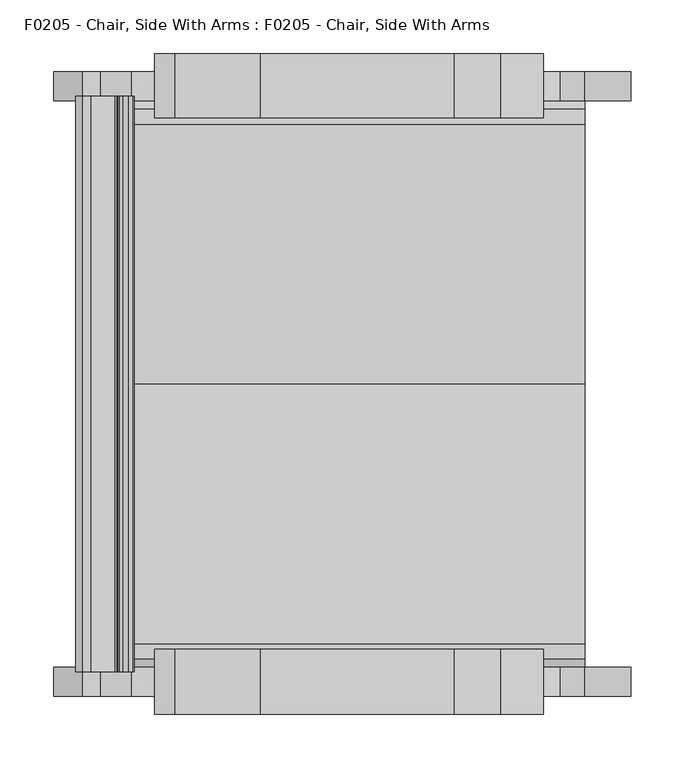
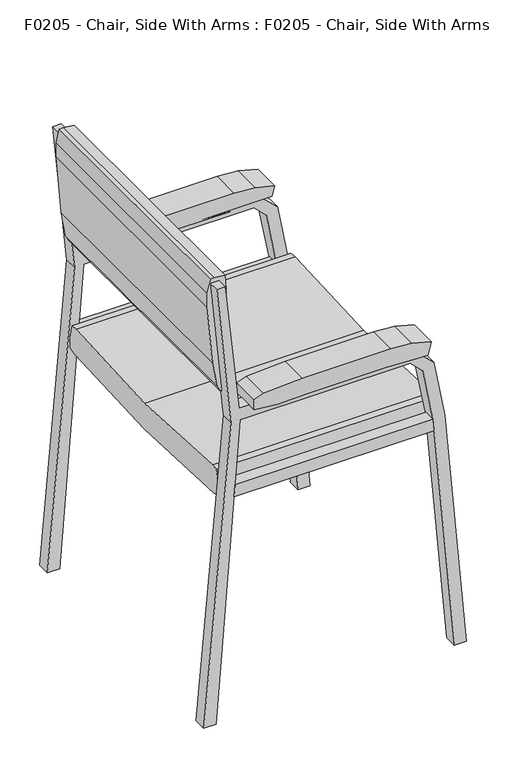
"""IFC4 building model written with IfcOpenShell, lengths in millimetres: proxy geometry, F0205 - Chair, Side With Arms : F0205 - Chair, Side With Arms."""

import ifcopenshell
import ifcopenshell.guid

model = None  # the IFC model being written
_history = None  # IfcOwnerHistory: only IFC2X3 demands one
_inside = {}  # id of a spatial element -> (the spatial element, [elements in it])
_under = {}  # id of a project, library or spatial element -> (it, [spatial elements below it])
_declared = {}  # id of a project -> (the project, [libraries it declares])
_typed = {}  # id of a type object -> (the type object, [elements of that type])
_made_of = {}  # id of a material, layer set ... -> (it, [elements and type objects made of it])


def new_model(schema):
    """Start an empty IFC model of exactly this schema.

    Asked for "IFC4X3", IfcOpenShell would pick the latest addendum, in which some entities
    have other attributes; the version numbers below select the first issue.
    IFC2X3 requires an IfcOwnerHistory on every rooted entity: one is made here for all.
    """
    global model, _history
    if schema == "IFC4X3":
        model = ifcopenshell.file(schema_version=(4, 3, 0, 0))
    else:
        model = ifcopenshell.file(schema=schema)
    _inside.clear()
    _under.clear()
    _declared.clear()
    _typed.clear()
    _made_of.clear()
    _history = None
    if model.schema == "IFC2X3":
        org = make("IfcOrganization", Name="unknown")
        user = make(
            "IfcPersonAndOrganization",
            ThePerson=make("IfcPerson", FamilyName="unknown"),
            TheOrganization=org,
        )
        app = make(
            "IfcApplication",
            ApplicationDeveloper=org,
            Version="unknown",
            ApplicationFullName="unknown",
            ApplicationIdentifier="unknown",
        )
        _history = make(
            "IfcOwnerHistory",
            OwningUser=user,
            OwningApplication=app,
            ChangeAction="ADDED",
            CreationDate=0,
        )
    return model


def make(cls, **values):
    """One entity of the class cls with the attributes given. An attribute that is None is left unset."""
    return model.create_entity(
        cls, **{name: value for name, value in values.items() if value is not None}
    )


def rooted(cls, **values):
    """An entity with a GlobalId (a new one), such as an element, a storey or a relation."""
    return make(cls, GlobalId=ifcopenshell.guid.new(), OwnerHistory=_history, **values)


def si_unit(unit_type, name, prefix=None):
    """IfcSIUnit, for example si_unit("LENGTHUNIT", "METRE", prefix="MILLI")."""
    return make("IfcSIUnit", UnitType=unit_type, Prefix=prefix, Name=name)


def assignment(units):
    """IfcUnitAssignment: the units of a project."""
    return None if units is None else make("IfcUnitAssignment", Units=units)


def point(xyz):
    """IfcCartesianPoint."""
    return None if xyz is None else make("IfcCartesianPoint", Coordinates=xyz)


def direction(xyz):
    """IfcDirection."""
    return None if xyz is None else make("IfcDirection", DirectionRatios=xyz)


def frame(location, z_axis=None, x_axis=None):
    """IfcAxis2Placement3D, a coordinate frame: its origin and axes. An axis left out is left unset."""
    return make(
        "IfcAxis2Placement3D",
        Location=point(location),
        Axis=direction(z_axis),
        RefDirection=direction(x_axis),
    )


def origin():
    """The frame at (0, 0, 0) with its axes left unset."""
    return frame((0.0, 0.0, 0.0))


def place(relative_to, where):
    """IfcLocalPlacement: puts the frame where relative to a parent placement (None: the world)."""
    return make(
        "IfcLocalPlacement", PlacementRelTo=relative_to, RelativePlacement=where
    )


def context(
    kind, dimensions, precision=None, world=None, true_north=None, identifier=None
):
    """IfcGeometricRepresentationContext, for example the 3D "Model" context."""
    return make(
        "IfcGeometricRepresentationContext",
        ContextIdentifier=identifier,
        ContextType=kind,
        CoordinateSpaceDimension=dimensions,
        Precision=precision,
        WorldCoordinateSystem=world,
        TrueNorth=true_north,
    )


def project(units=None, contexts=None):
    """IfcProject with its units and contexts."""
    return rooted(
        "IfcProject",
        Name="project",
        RepresentationContexts=contexts,
        UnitsInContext=assignment(units),
    )


def spatial(cls, under=None, at=None, **own):
    """A site, building, storey or space (cls), placed at a placement, below another one or the project."""
    s = rooted(cls, ObjectPlacement=at, **own)
    if under is not None:
        _under.setdefault(under.id(), (under, []))[1].append(s)
    return s


def polyline(points):
    """IfcPolyline through the points."""
    return make("IfcPolyline", Points=[point(p) for p in points])


def outline(outer, holes=None, kind="AREA"):
    """IfcArbitraryClosedProfileDef: a profile drawn as a closed curve; with holes, ...WithVoids."""
    if holes is None:
        return make("IfcArbitraryClosedProfileDef", ProfileType=kind, OuterCurve=outer)
    return make(
        "IfcArbitraryProfileDefWithVoids",
        ProfileType=kind,
        OuterCurve=outer,
        InnerCurves=holes,
    )


def extrude(swept, where, along, depth):
    """IfcExtrudedAreaSolid: the profile swept, set in the frame where, extruded along a direction by depth."""
    return make(
        "IfcExtrudedAreaSolid",
        SweptArea=swept,
        Position=where,
        ExtrudedDirection=direction(along),
        Depth=depth,
    )


def shape(context_of_items, identifier, shape_type, items):
    """IfcShapeRepresentation: the items that make up one representation, for example the "Body"."""
    return make(
        "IfcShapeRepresentation",
        ContextOfItems=context_of_items,
        RepresentationIdentifier=identifier,
        RepresentationType=shape_type,
        Items=items,
    )


def source(mapping_origin, context_of_items, identifier, shape_type, items):
    """IfcRepresentationMap: a shape defined once, which mapped items show again and again."""
    return make(
        "IfcRepresentationMap",
        MappingOrigin=mapping_origin,
        MappedRepresentation=shape(context_of_items, identifier, shape_type, items),
    )


def transform(
    local_origin,
    x_axis=None,
    y_axis=None,
    z_axis=None,
    scale=None,
    scale2=None,
    scale3=None,
    uniform=True,
):
    """IfcCartesianTransformationOperator3D, or its non-uniform kind. x_axis, y_axis, z_axis: its Axis1, 2, 3."""
    if uniform:
        return make(
            "IfcCartesianTransformationOperator3D",
            Axis1=direction(x_axis),
            Axis2=direction(y_axis),
            LocalOrigin=point(local_origin),
            Scale=scale,
            Axis3=direction(z_axis),
        )
    return make(
        "IfcCartesianTransformationOperator3DnonUniform",
        Axis1=direction(x_axis),
        Axis2=direction(y_axis),
        LocalOrigin=point(local_origin),
        Scale=scale,
        Axis3=direction(z_axis),
        Scale2=scale2,
        Scale3=scale3,
    )


def mapped(mapping_source, mapping_target):
    """IfcMappedItem: shows the shape of a source again, moved by a transform."""
    return make(
        "IfcMappedItem", MappingSource=mapping_source, MappingTarget=mapping_target
    )


def made_of(thing, what):
    """Note that an element or type object is made of a material, layer set ...; save() writes the relation."""
    if what is not None:
        _made_of.setdefault(what.id(), (what, []))[1].append(thing)
    return thing


def element(
    cls,
    number,
    at=None,
    inside=None,
    cuts=None,
    type_object=None,
    material=None,
    context=None,
    identifier="Body",
    shape_type=None,
    held_by="IfcProductDefinitionShape",
    body=None,
    shapes=None,
    **own,
):
    """One element of the class cls, such as IfcWall. Its Tag is "e" and its number.

    at: its placement. inside: the storey or other place that contains it. cuts: it is an
    opening in that element (IfcRelVoidsElement). A single representation is given by context,
    identifier, shape_type and body (its items); several are given by shapes. held_by: the class
    of the entity that holds the representations. save() writes the other relations.
    """
    e = rooted(cls, Tag="e%d" % number, ObjectPlacement=at, **own)
    if body is not None:
        shapes = [shape(context, identifier, shape_type, body)]
    if shapes is not None:
        e.Representation = make(held_by, Representations=shapes)
    if inside is not None:
        _inside.setdefault(inside.id(), (inside, []))[1].append(e)
    if cuts is not None:
        rooted(
            "IfcRelVoidsElement", RelatingBuildingElement=cuts, RelatedOpeningElement=e
        )
    if type_object is not None:
        _typed.setdefault(type_object.id(), (type_object, []))[1].append(e)
    return made_of(e, material)


def aggregate(whole, parts):
    """IfcRelAggregates: a whole, such as a stair, and the parts it consists of."""
    return rooted("IfcRelAggregates", RelatingObject=whole, RelatedObjects=parts)


def save(model, path):
    """Write the relations noted so far, then the file.

    IfcRelAggregates (storeys below a building ...), IfcRelContainedInSpatialStructure (elements
    in a storey), IfcRelDefinesByType, IfcRelAssociatesMaterial and IfcRelDeclares: one each for
    every whole, place, type object, material and project.
    """
    for whole, parts in _under.values():
        aggregate(whole, parts)
    for where, things in _inside.values():
        rooted(
            "IfcRelContainedInSpatialStructure",
            RelatedElements=things,
            RelatingStructure=where,
        )
    for kind, things in _typed.values():
        rooted("IfcRelDefinesByType", RelatedObjects=things, RelatingType=kind)
    for what, things in _made_of.values():
        rooted("IfcRelAssociatesMaterial", RelatedObjects=things, RelatingMaterial=what)
    for by, libraries in _declared.values():
        rooted("IfcRelDeclares", RelatingContext=by, RelatedDefinitions=libraries)
    model.write(path)


def f0205_chair_side_with_arms_f0205_chair_side_with_arms_a74d3a73(model_context):
    return source(origin(), model_context, "Body", "SweptSolid", [
        extrude(outline(polyline([(949.5558695, -288.1891828), (949.0276678, -295.7428189), (920.9464532, -302.0388283), (890.9596762, -302.364601), (766.4444592, -291.4709311), (712.0444312, -282.2922915), (699.4048634, -275.0755148), (701.6800869, -249.0695909), (734.5347731, -247.5019251), (744.2301544, -248.5209507), (775.1826091, -252.8120869), (831.1136295, -257.7054171), (872.5802588, -261.3332771), (887.0899422, -262.6027099), (935.3234911, -264.152458), (946.525946, -265.1325458), (949.5558695, -288.1891828)])), frame((0.0, -267.8488342, 0.0), z_axis=(0.0, 1.0, 0.0), x_axis=(0.0, 0.0, 1.0)), (0.0, 0.0, 1.0), 536.2041409),
        extrude(outline(polyline([(-256.4009052, 523.5214117), (-241.6696752, 524.0358376), (0.2532363, 511.5153378), (242.1729901, 524.0426254), (256.8914817, 523.5286444), (268.3553067, 472.7447876), (248.2006555, 466.9655344), (0.2531025, 454.1861401), (-247.7015659, 466.8926254), (-267.8488342, 472.7447876), (-256.4009052, 523.5214117)])), frame((-276.0175852, 0.0, 0.0), z_axis=(1.0, 0.0, 0.0), x_axis=(0.0, 1.0, 0.0)), (0.0, 0.0, 1.0), 448.6997704),
        extrude(outline(polyline([(688.7736743, -228.6), (667.1445431, -228.6), (661.9341602, -181.3714246), (664.006805, -120.3965081), (664.006805, 42.1384065), (660.8978378, 96.9044584), (660.8978378, 126.6899316), (687.4154537, 134.0660802), (697.5043243, 94.4420938), (700.8875965, 51.2519248), (700.8875965, -129.7992697), (695.7892437, -209.3248816), (688.7736743, -228.6)])), frame((0.0, -307.5947608, 0.0), z_axis=(0.0, 1.0, 0.0), x_axis=(0.0, 0.0, 1.0)), (0.0, 0.0, 1.0), 60.4113562),
        extrude(outline(polyline([(688.7736743, -228.6), (667.1445431, -228.6), (661.9341602, -181.3714246), (664.006805, -120.3965081), (664.006805, 42.1384065), (667.1445431, -13.1344595), (667.1445431, 128.4275172), (687.4154537, 134.0660802), (697.5043243, 94.4420938), (700.8875965, 51.2519248), (700.8875965, -129.7992697), (695.7892437, -209.3248816), (688.7736743, -228.6)])), frame((0.0, 248.2080384, 0.0), z_axis=(0.0, 1.0, 0.0), x_axis=(0.0, 0.0, 1.0)), (0.0, 0.0, 1.0), 59.893195),
        extrude(outline(polyline([(504.8449262, 147.1860068), (504.8449262, -258.5366203), (479.5415809, -260.4830005), (479.5415809, 149.3997627), (504.8449262, 147.1860068)])), frame((0.0, -290.8917348, 0.0), z_axis=(0.0, 1.0, 0.0), x_axis=(0.0, 0.0, 1.0)), (0.0, 0.0, 1.0), 25.4),
        extrude(outline(polyline([(504.8449262, 147.1860068), (504.8449262, -258.5366203), (479.5415809, -260.4830005), (479.5415809, 149.3997627), (504.8449262, 147.1860068)])), frame((0.0, 264.3929274, 0.0), z_axis=(0.0, 1.0, 0.0), x_axis=(0.0, 0.0, 1.0)), (0.0, 0.0, 1.0), 25.4),
        extrude(outline(polyline([(0.0, -297.370228), (642.1831371, -247.9723105), (642.1831371, 101.2776895), (617.1504769, 126.3103497), (505.0230984, 147.1704188), (0.0, 191.3542147), (0.0, 215.7503897), (505.0203406, 172.091969), (627.5762276, 149.2917903), (667.1445431, 107.5467505), (667.1445431, -250.1263819), (940.2581485, -278.8317785), (940.2581485, -295.7126518), (642.1831371, -266.7616436), (0.0, -322.770228), (0.0, -297.370228)])), frame((0.0, -290.8917348, 0.0), z_axis=(0.0, 1.0, 0.0), x_axis=(0.0, 0.0, 1.0)), (0.0, 0.0, 1.0), 26.9964161),
        extrude(outline(polyline([(0.0, -297.370228), (642.1831371, -247.9723105), (642.1831371, 101.2776895), (617.1504769, 126.3103497), (505.0230984, 147.1704188), (0.0, 191.3542147), (0.0, 215.7503897), (505.0203406, 172.091969), (627.5762276, 149.2917903), (667.1445431, 107.5467505), (667.1445431, -250.1263819), (940.2581485, -278.8317785), (940.2581485, -295.7126518), (642.1831371, -266.7616436), (0.0, -322.770228), (0.0, -297.370228)])), frame((0.0, 264.3929274, 0.0), z_axis=(0.0, 1.0, 0.0), x_axis=(0.0, 0.0, 1.0)), (0.0, 0.0, 1.0), 26.9964161),
    ])


if __name__ == "__main__":
    model = new_model("IFC4")
    model_context = context("Model", 3, world=origin())
    ifc_project = project(units=[si_unit("LENGTHUNIT", "METRE", prefix="MILLI")], contexts=[model_context])
    site = spatial("IfcSite", under=ifc_project)
    building = spatial("IfcBuilding", under=site)
    placement = place(None, origin())
    f0205_chair_side_with_arms_f0205_chair_side_with_arms_shape = f0205_chair_side_with_arms_f0205_chair_side_with_arms_a74d3a73(model_context)
    element("IfcBuildingElementProxy", 1, Name="F0205 - Chair, Side With Arms : F0205 - Chair, Side With Arms", ObjectType="F0205 - Chair, Side With Arms : F0205 - Chair, Side With Arms", at=placement, inside=building, context=model_context, shape_type="MappedRepresentation", body=[
        mapped(f0205_chair_side_with_arms_f0205_chair_side_with_arms_shape, transform((0.0, 0.0, 0.0), x_axis=(1.0, 0.0, 0.0), y_axis=(0.0, 1.0, 0.0), z_axis=(0.0, 0.0, 1.0))),
    ])
    save(model, "model.ifc")
